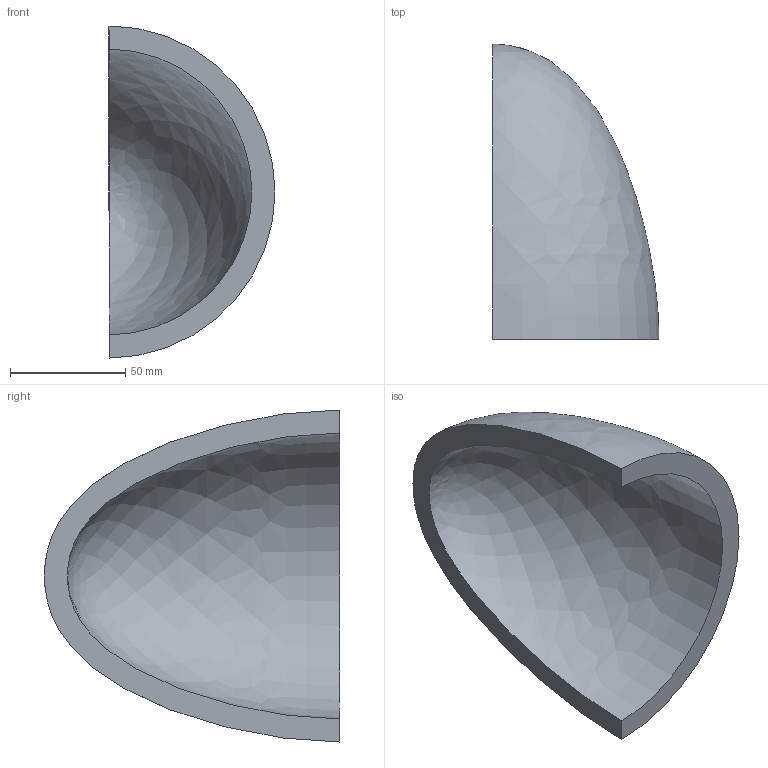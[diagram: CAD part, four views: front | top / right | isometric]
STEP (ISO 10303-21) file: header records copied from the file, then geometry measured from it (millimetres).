
FILE_DESCRIPTION(('CATIA V5 STEP Exchange'),'2;1');
FILE_NAME('C:\_Andres\UNIVERSIDAD\IQS\ASIGNATURAS\DAO\EXF\EXF-16172c\2inicio\Ribera_Armengol_Ej10_v28.stp','2017-03-05T22:31:15+00:00',('none'),('none'),'CATIA Version 5-6 Release 2014 SP1 HF18','CATIA V5 STEP AP203','none');
FILE_SCHEMA(('CONFIG_CONTROL_DESIGN'));
Length unit declared in the file: millimetre
Products named in the file (1): Ribera_Armengol_Ej10_v28
Bounding box: 72 x 128 x 144 mm (x, y, z)
Volume: 221881.5 mm3; surface area: 49631.5 mm2
Topology: 1 solids, 1 shells, 4 faces, 10 edges, 6 vertices
Faces by surface type: revolution 2, plane 2
Entity records: 248 total; most frequent: CARTESIAN_POINT 126, ORIENTED_EDGE 16, DIRECTION 10, EDGE_CURVE 8, B_SPLINE_CURVE_WITH_KNOTS 6, VERTEX_POINT 6, AXIS2_PLACEMENT_3D 5, ADVANCED_FACE 4
